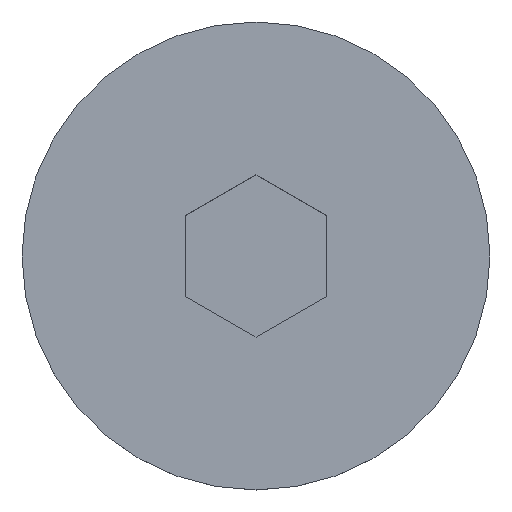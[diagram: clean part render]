
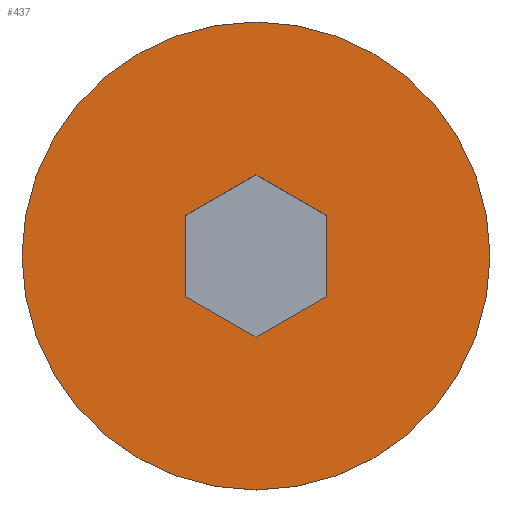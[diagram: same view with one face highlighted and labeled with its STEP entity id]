
A CAD part, top view. The second image highlights one B-rep face of the part: STEP entity #437.
In plain terms, the highlighted planar face has unit normal (0, 0, 1).
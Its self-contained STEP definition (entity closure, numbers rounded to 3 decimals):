
#228=CARTESIAN_POINT('',(-1.5,-0.866,0.));
#229=VERTEX_POINT('',#228);
#236=CARTESIAN_POINT('',(0.,-1.732,0.));
#237=VERTEX_POINT('',#236);
#238=CARTESIAN_POINT('',(0.,-1.732,0.));
#239=DIRECTION('',(-0.866,0.5,0.0));
#240=VECTOR('',#239,1.732);
#241=LINE('',#238,#240);
#242=EDGE_CURVE('',#237,#229,#241,.T.);
#267=CARTESIAN_POINT('',(1.5,-0.866,0.));
#268=VERTEX_POINT('',#267);
#269=CARTESIAN_POINT('',(1.5,-0.866,0.));
#270=DIRECTION('',(-0.866,-0.5,0.0));
#271=VECTOR('',#270,1.732);
#272=LINE('',#269,#271);
#273=EDGE_CURVE('',#268,#237,#272,.T.);
#298=CARTESIAN_POINT('',(1.5,0.866,0.));
#299=VERTEX_POINT('',#298);
#300=CARTESIAN_POINT('',(1.5,0.866,0.));
#301=DIRECTION('',(0.0,-1.0,0.0));
#302=VECTOR('',#301,1.732);
#303=LINE('',#300,#302);
#304=EDGE_CURVE('',#299,#268,#303,.T.);
#329=CARTESIAN_POINT('',(0.,1.732,0.));
#330=VERTEX_POINT('',#329);
#331=CARTESIAN_POINT('',(0.,1.732,0.));
#332=DIRECTION('',(0.866,-0.5,0.0));
#333=VECTOR('',#332,1.732);
#334=LINE('',#331,#333);
#335=EDGE_CURVE('',#330,#299,#334,.T.);
#360=CARTESIAN_POINT('',(-1.5,0.866,0.));
#361=VERTEX_POINT('',#360);
#362=CARTESIAN_POINT('',(-1.5,0.866,0.));
#363=DIRECTION('',(0.866,0.5,0.0));
#364=VECTOR('',#363,1.732);
#365=LINE('',#362,#364);
#366=EDGE_CURVE('',#361,#330,#365,.T.);
#389=CARTESIAN_POINT('',(-1.5,-0.866,0.));
#390=DIRECTION('',(0.0,1.0,0.0));
#391=VECTOR('',#390,1.732);
#392=LINE('',#389,#391);
#393=EDGE_CURVE('',#229,#361,#392,.T.);
#413=CARTESIAN_POINT('',(2.5,0.0,0.));
#414=DIRECTION('',(0.0,0.0,1.0));
#415=DIRECTION('',(1.0,0.0,0.0));
#416=AXIS2_PLACEMENT_3D('',#413,#414,#415);
#417=PLANE('',#416);
#418=CARTESIAN_POINT('',(5.0,0.0,0.));
#419=VERTEX_POINT('',#418);
#420=CARTESIAN_POINT('',(0.0,0.0,0.0));
#421=DIRECTION('',(0.0,0.0,-1.0));
#422=DIRECTION('',(1.0,0.0,0.0));
#423=AXIS2_PLACEMENT_3D('',#420,#421,#422);
#424=CIRCLE('',#423,5.0);
#425=EDGE_CURVE('',#419,#419,#424,.T.);
#426=ORIENTED_EDGE('',*,*,#425,.F.);
#427=EDGE_LOOP('',(#426));
#428=FACE_OUTER_BOUND('',#427,.T.);
#429=ORIENTED_EDGE('',*,*,#242,.T.);
#430=ORIENTED_EDGE('',*,*,#393,.T.);
#431=ORIENTED_EDGE('',*,*,#366,.T.);
#432=ORIENTED_EDGE('',*,*,#335,.T.);
#433=ORIENTED_EDGE('',*,*,#304,.T.);
#434=ORIENTED_EDGE('',*,*,#273,.T.);
#435=EDGE_LOOP('',(#429,#430,#431,#432,#433,#434));
#436=FACE_BOUND('',#435,.T.);
#437=ADVANCED_FACE('',(#428,#436),#417,.T.);
